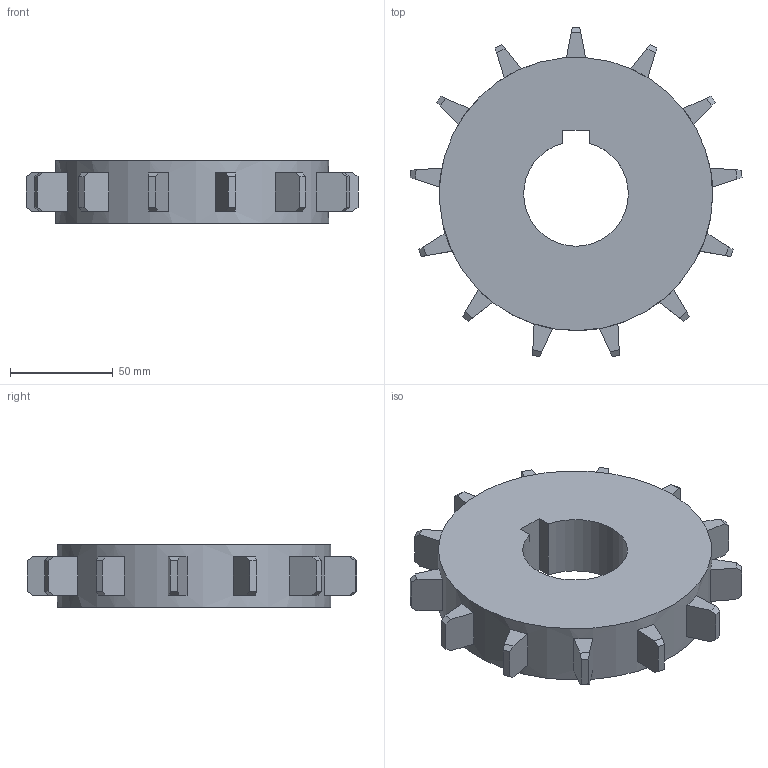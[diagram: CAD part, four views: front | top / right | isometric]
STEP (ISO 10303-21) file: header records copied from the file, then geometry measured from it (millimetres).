
FILE_DESCRIPTION((''),'2;1');
FILE_NAME('S2800_SPROCKET_62_RND','2020-12-03T08:27:10',('rklein'),('INTRALOX'),'CREO PARAMETRIC BY PTC INC, 2019471','CREO PARAMETRIC BY PTC INC, 2019471','');
FILE_SCHEMA(('CONFIG_CONTROL_DESIGN'));
Length unit declared in the file: inch
Products named in the file (1): S2800_SPROCKET_62_RND
Bounding box: 161.18 x 160.01 x 30.48 mm (x, y, z)
Volume: 380233.4 mm3; surface area: 49538.2 mm2
Topology: 1 solids, 1 shells, 99 faces, 252 edges, 168 vertices
Faces by surface type: plane 96, cylinder 3
Entity records: 3002 total; most frequent: CARTESIAN_POINT 519, ORIENTED_EDGE 504, DIRECTION 482, EDGE_CURVE 252, VECTOR 220, LINE 220, VERTEX_POINT 168, AXIS2_PLACEMENT_3D 131
